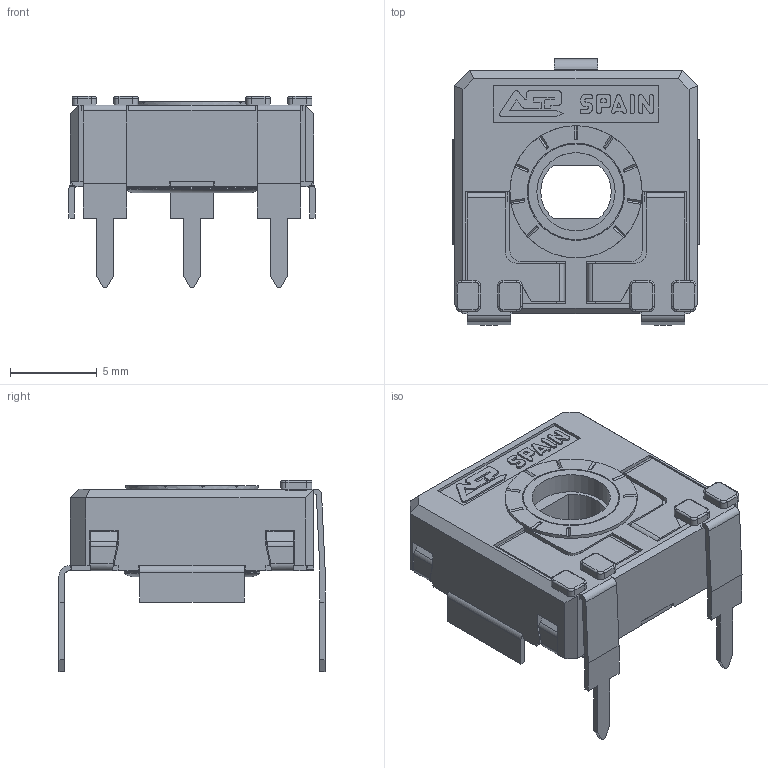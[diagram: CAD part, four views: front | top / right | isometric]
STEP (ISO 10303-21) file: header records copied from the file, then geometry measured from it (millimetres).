
FILE_DESCRIPTION(/* description */ (''),/* implementation_level */ '2;1');
FILE_NAME(/* name */ 'C:\Users\CEM\Desktop\ENVIAR\TRANSICION 3D CATALOGOS\RS14NV15 CFF.stp',/* time_stamp */ '2025-12-10T11:09:56+01:00',/* author */ ('CEM'),/* organization */ (''),/* preprocessor_version */ 'ST-DEVELOPER v16.13',/* originating_system */ 'Autodesk Inventor 2018',/* authorisation */ '');
FILE_SCHEMA (('AUTOMOTIVE_DESIGN { 1 0 10303 214 3 1 1 }'));
Length unit declared in the file: millimetre
Products named in the file (1): CARCASA CA14 PGA
Bounding box: 14.15 x 15.3 x 11 mm (x, y, z)
Volume: 533.2 mm3; surface area: 1522.5 mm2
Topology: 1 solids, 1 shells, 681 faces, 1918 edges, 1234 vertices
Faces by surface type: plane 501, cylinder 143, torus 23, bspline 8, cone 6
Full cylindrical faces by diameter (mm): 4.5 x1, 5.5 x1, 5.6 x1, 5.752 x1, 6.8 x1, 7.6 x1
Entity records: 22531 total; most frequent: CARTESIAN_POINT 4028, ORIENTED_EDGE 3808, DIRECTION 3596, EDGE_CURVE 1904, LINE 1504, VECTOR 1504, VERTEX_POINT 1230, AXIS2_PLACEMENT_3D 1046
